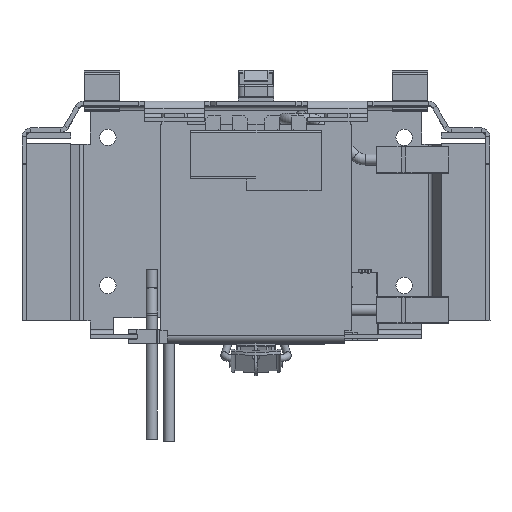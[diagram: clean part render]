
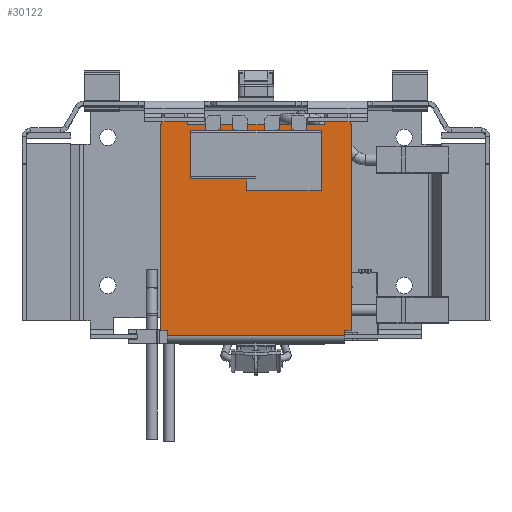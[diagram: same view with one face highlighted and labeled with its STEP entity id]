
A CAD part, top view. The second image highlights one B-rep face of the part: STEP entity #30122.
In plain terms, the highlighted planar face has unit normal (0, 0, 1).
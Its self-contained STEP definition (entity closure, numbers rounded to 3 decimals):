
#3174=FACE_OUTER_BOUND('',#4869,.T.);
#4869=EDGE_LOOP('',(#21408,#21409,#21410,#21411,#21412,#21413,#21414,#21415,
#21416,#21417,#21418,#21419,#21420,#21421,#21422,#21423));
#6847=LINE('',#42994,#10041);
#6851=LINE('',#43003,#10045);
#6918=LINE('',#43172,#10112);
#6923=LINE('',#43188,#10117);
#6926=LINE('',#43194,#10120);
#6927=LINE('',#43195,#10121);
#6928=LINE('',#43197,#10122);
#6929=LINE('',#43199,#10123);
#6930=LINE('',#43201,#10124);
#6931=LINE('',#43203,#10125);
#6932=LINE('',#43205,#10126);
#6933=LINE('',#43207,#10127);
#6934=LINE('',#43209,#10128);
#6935=LINE('',#43211,#10129);
#6936=LINE('',#43212,#10130);
#6937=LINE('',#43213,#10131);
#10041=VECTOR('',#35510,10.);
#10045=VECTOR('',#35516,10.);
#10112=VECTOR('',#35669,10.);
#10117=VECTOR('',#35690,10.);
#10120=VECTOR('',#35695,10.);
#10121=VECTOR('',#35696,10.);
#10122=VECTOR('',#35697,10.);
#10123=VECTOR('',#35698,10.);
#10124=VECTOR('',#35699,10.);
#10125=VECTOR('',#35700,10.);
#10126=VECTOR('',#35701,10.);
#10127=VECTOR('',#35702,10.);
#10128=VECTOR('',#35703,10.);
#10129=VECTOR('',#35704,10.);
#10130=VECTOR('',#35705,10.);
#10131=VECTOR('',#35706,10.);
#13093=VERTEX_POINT('',#42991);
#13094=VERTEX_POINT('',#42993);
#13097=VERTEX_POINT('',#43000);
#13098=VERTEX_POINT('',#43002);
#13156=VERTEX_POINT('',#43169);
#13157=VERTEX_POINT('',#43171);
#13160=VERTEX_POINT('',#43187);
#13162=VERTEX_POINT('',#43193);
#13163=VERTEX_POINT('',#43196);
#13164=VERTEX_POINT('',#43198);
#13165=VERTEX_POINT('',#43200);
#13166=VERTEX_POINT('',#43202);
#13167=VERTEX_POINT('',#43204);
#13168=VERTEX_POINT('',#43206);
#13169=VERTEX_POINT('',#43208);
#13170=VERTEX_POINT('',#43210);
#16200=EDGE_CURVE('',#13093,#13094,#6847,.T.);
#16204=EDGE_CURVE('',#13098,#13097,#6851,.T.);
#16286=EDGE_CURVE('',#13157,#13156,#6918,.T.);
#16294=EDGE_CURVE('',#13157,#13160,#6923,.T.);
#16297=EDGE_CURVE('',#13162,#13156,#6926,.T.);
#16298=EDGE_CURVE('',#13098,#13162,#6927,.T.);
#16299=EDGE_CURVE('',#13163,#13097,#6928,.T.);
#16300=EDGE_CURVE('',#13163,#13164,#6929,.T.);
#16301=EDGE_CURVE('',#13164,#13165,#6930,.T.);
#16302=EDGE_CURVE('',#13165,#13166,#6931,.T.);
#16303=EDGE_CURVE('',#13167,#13166,#6932,.T.);
#16304=EDGE_CURVE('',#13167,#13168,#6933,.T.);
#16305=EDGE_CURVE('',#13168,#13169,#6934,.T.);
#16306=EDGE_CURVE('',#13169,#13170,#6935,.T.);
#16307=EDGE_CURVE('',#13094,#13170,#6936,.T.);
#16308=EDGE_CURVE('',#13160,#13093,#6937,.T.);
#21408=ORIENTED_EDGE('',*,*,#16286,.T.);
#21409=ORIENTED_EDGE('',*,*,#16297,.F.);
#21410=ORIENTED_EDGE('',*,*,#16298,.F.);
#21411=ORIENTED_EDGE('',*,*,#16204,.T.);
#21412=ORIENTED_EDGE('',*,*,#16299,.F.);
#21413=ORIENTED_EDGE('',*,*,#16300,.T.);
#21414=ORIENTED_EDGE('',*,*,#16301,.T.);
#21415=ORIENTED_EDGE('',*,*,#16302,.T.);
#21416=ORIENTED_EDGE('',*,*,#16303,.F.);
#21417=ORIENTED_EDGE('',*,*,#16304,.T.);
#21418=ORIENTED_EDGE('',*,*,#16305,.T.);
#21419=ORIENTED_EDGE('',*,*,#16306,.T.);
#21420=ORIENTED_EDGE('',*,*,#16307,.F.);
#21421=ORIENTED_EDGE('',*,*,#16200,.F.);
#21422=ORIENTED_EDGE('',*,*,#16308,.F.);
#21423=ORIENTED_EDGE('',*,*,#16294,.F.);
#28960=PLANE('',#32476);
#30122=ADVANCED_FACE('',(#3174),#28960,.T.);
#32476=AXIS2_PLACEMENT_3D('',#43192,#35693,#35694);
#35510=DIRECTION('',(0.,1.,0.));
#35516=DIRECTION('',(0.,1.,0.));
#35669=DIRECTION('',(1.,0.,0.));
#35690=DIRECTION('',(0.,1.,0.));
#35693=DIRECTION('center_axis',(0.,0.,
1.));
#35694=DIRECTION('ref_axis',(1.,0.,0.));
#35695=DIRECTION('',(0.,-1.,0.));
#35696=DIRECTION('',(-1.,0.,0.));
#35697=DIRECTION('',(1.,0.,0.));
#35698=DIRECTION('',(0.,1.,0.));
#35699=DIRECTION('',(-1.,0.,0.));
#35700=DIRECTION('',(0.,-1.,0.));
#35701=DIRECTION('',(1.,0.,0.));
#35702=DIRECTION('',(0.,1.,0.));
#35703=DIRECTION('',(-1.,0.,0.));
#35704=DIRECTION('',(0.,-1.,0.));
#35705=DIRECTION('',(1.,0.,0.));
#35706=DIRECTION('',(-1.,0.,0.));
#42991=CARTESIAN_POINT('',(-32.094,-34.75,0.));
#42993=CARTESIAN_POINT('',(-32.094,34.75,0.));
#42994=CARTESIAN_POINT('',(-32.094,0.,0.));
#43000=CARTESIAN_POINT('',(32.094,34.75,0.));
#43002=CARTESIAN_POINT('',(32.094,-34.75,0.));
#43003=CARTESIAN_POINT('',(32.094,0.,0.));
#43169=CARTESIAN_POINT('',(30.,-36.45,0.));
#43171=CARTESIAN_POINT('',(-30.,-36.45,0.));
#43172=CARTESIAN_POINT('',(-15.,-36.45,0.));
#43187=CARTESIAN_POINT('',(-30.,-34.75,0.));
#43188=CARTESIAN_POINT('',(-30.,-38.75,0.));
#43192=CARTESIAN_POINT('Origin',(0.,0.,
0.));
#43193=CARTESIAN_POINT('',(30.,-34.75,0.));
#43194=CARTESIAN_POINT('',(30.,-34.75,0.));
#43195=CARTESIAN_POINT('',(-32.531,-34.75,0.));
#43196=CARTESIAN_POINT('',(32.,34.75,0.));
#43197=CARTESIAN_POINT('',(40.125,34.75,0.));
#43198=CARTESIAN_POINT('',(32.,36.45,0.));
#43199=CARTESIAN_POINT('',(32.,34.75,0.));
#43200=CARTESIAN_POINT('',(23.,36.45,0.));
#43201=CARTESIAN_POINT('',(11.5,36.45,0.));
#43202=CARTESIAN_POINT('',(23.,34.75,0.));
#43203=CARTESIAN_POINT('',(23.,38.75,0.));
#43204=CARTESIAN_POINT('',(-23.,34.75,0.));
#43205=CARTESIAN_POINT('',(40.125,34.75,0.));
#43206=CARTESIAN_POINT('',(-23.,36.45,0.));
#43207=CARTESIAN_POINT('',(-23.,34.75,0.));
#43208=CARTESIAN_POINT('',(-32.,36.45,0.));
#43209=CARTESIAN_POINT('',(-16.,36.45,0.));
#43210=CARTESIAN_POINT('',(-32.,34.75,0.));
#43211=CARTESIAN_POINT('',(-32.,38.75,0.));
#43212=CARTESIAN_POINT('',(40.125,34.75,0.));
#43213=CARTESIAN_POINT('',(-32.531,-34.75,0.));
